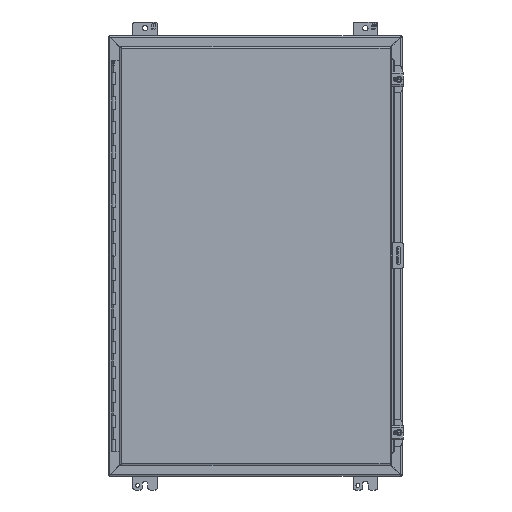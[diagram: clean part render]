
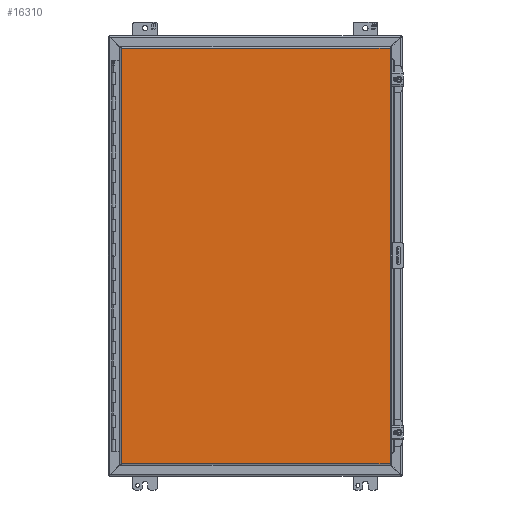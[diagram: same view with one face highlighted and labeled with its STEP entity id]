
A CAD part, front view. The second image highlights one B-rep face of the part: STEP entity #16310.
In plain terms, the highlighted planar face has unit normal (0, -1, 0).
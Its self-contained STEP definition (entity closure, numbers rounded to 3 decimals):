
#990=LINE('',#23741,#2607);
#991=LINE('',#23744,#2608);
#992=LINE('',#23746,#2609);
#993=LINE('',#23748,#2610);
#2607=VECTOR('',#19234,1000.);
#2608=VECTOR('',#19235,1000.);
#2609=VECTOR('',#19236,1000.);
#2610=VECTOR('',#19237,1000.);
#5106=ORIENTED_EDGE('',*,*,#9510,.T.);
#5107=ORIENTED_EDGE('',*,*,#9511,.T.);
#5108=ORIENTED_EDGE('',*,*,#9512,.T.);
#5109=ORIENTED_EDGE('',*,*,#9513,.T.);
#9510=EDGE_CURVE('',#11768,#11769,#990,.T.);
#9511=EDGE_CURVE('',#11769,#11770,#991,.T.);
#9512=EDGE_CURVE('',#11770,#11771,#992,.T.);
#9513=EDGE_CURVE('',#11771,#11768,#993,.T.);
#11768=VERTEX_POINT('',#23742);
#11769=VERTEX_POINT('',#23743);
#11770=VERTEX_POINT('',#23745);
#11771=VERTEX_POINT('',#23747);
#13682=EDGE_LOOP('',(#5106,#5107,#5108,#5109));
#14711=FACE_BOUND('',#13682,.T.);
#15665=PLANE('',#17433);
#16310=ADVANCED_FACE('',(#14711),#15665,.T.);
#17433=AXIS2_PLACEMENT_3D('',#23740,#19232,#19233);
#19232=DIRECTION('',(0.,-1.,0.));
#19233=DIRECTION('',(0.,0.,-1.));
#19234=DIRECTION('',(0.,0.,-1.));
#19235=DIRECTION('',(1.,0.,0.));
#19236=DIRECTION('',(0.,0.,1.));
#19237=DIRECTION('',(-1.,0.,0.));
#23740=CARTESIAN_POINT('',(-279.044,0.,-431.66));
#23741=CARTESIAN_POINT('',(-279.044,0.,431.66));
#23742=CARTESIAN_POINT('',(-279.044,0.,431.66));
#23743=CARTESIAN_POINT('',(-279.044,0.,-431.66));
#23744=CARTESIAN_POINT('',(-279.044,0.,-431.66));
#23745=CARTESIAN_POINT('',(279.044,0.,-431.66));
#23746=CARTESIAN_POINT('',(279.044,0.,-431.66));
#23747=CARTESIAN_POINT('',(279.044,0.,431.66));
#23748=CARTESIAN_POINT('',(279.044,0.,431.66));
